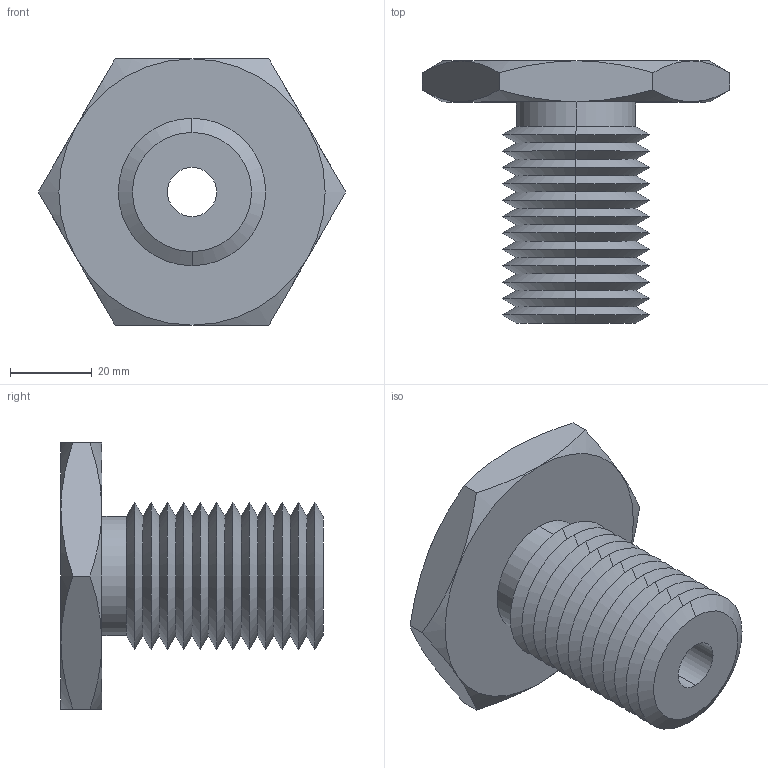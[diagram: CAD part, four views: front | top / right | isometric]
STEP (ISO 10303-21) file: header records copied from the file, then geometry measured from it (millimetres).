
FILE_DESCRIPTION (( 'STEP AP203' ), '1' );
FILE_NAME ('63302.W0036_M12x1,7.step', '2013-12-08T11:08:45', ( 'User' ), ( '' ), 'SwSTEP 2.0', 'SolidWorks 2009', '' );
FILE_SCHEMA (( 'CONFIG_CONTROL_DESIGN' ));
Length unit declared in the file: millimetre
Products named in the file (1): 63302.W0036_M12x1,7
Bounding box: 75.06 x 64 x 65 mm (x, y, z)
Volume: 72736.4 mm3; surface area: 21739.9 mm2
Topology: 1 solids, 1 shells, 75 faces, 154 edges, 82 vertices
Faces by surface type: cone 62, plane 9, cylinder 4
Entity records: 2139 total; most frequent: CARTESIAN_POINT 496, DIRECTION 352, ORIENTED_EDGE 308, EDGE_CURVE 154, AXIS2_PLACEMENT_3D 146, VERTEX_POINT 82, EDGE_LOOP 78, ADVANCED_FACE 75
